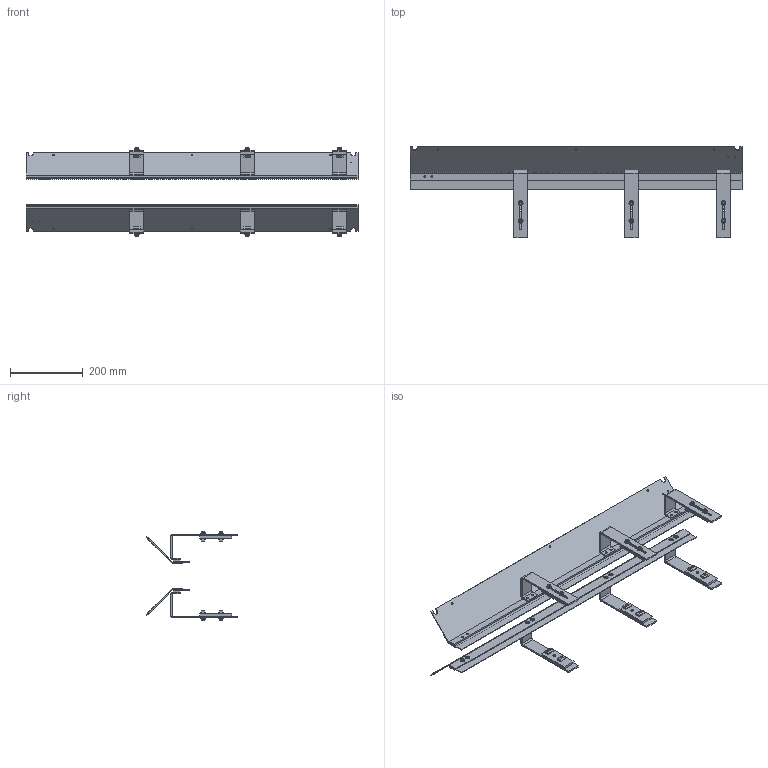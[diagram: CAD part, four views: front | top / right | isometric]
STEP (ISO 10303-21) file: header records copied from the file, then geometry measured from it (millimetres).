
FILE_DESCRIPTION((''),'2;1');
FILE_NAME('301293_ASM_ASM','2023-03-03T',('jenni.wallner'),(''),'PRO/ENGINEER BY PARAMETRIC TECHNOLOGY CORPORATION, 2012420','PRO/ENGINEER BY PARAMETRIC TECHNOLOGY CORPORATION, 2012420','');
FILE_SCHEMA(('CONFIG_CONTROL_DESIGN'));
Length unit declared in the file: inch
Products named in the file (12): 301279; 301274; 920684M; 639971M; 930512M; 301295_ASM_ASM; 300860M; 300745; 300696M; 930508M; ASM0001_ASM; 301293_ASM_ASM
Assembly tree (25 placements, depth 4):
  301293_ASM_ASM
    ASM0001_ASM
      301295_ASM_ASM  x6
        301279
        301274
        920684M
        639971M
        930512M
      300860M  x2
      300745  x2
      300696M  x2
      930508M  x4
Bounding box: 914.4 x 251.81 x 242.99 mm (x, y, z)
Volume: 1334789.5 mm3; surface area: 961723 mm2
Topology: 58 solids, 96 shells, 1330 faces, 3328 edges, 2172 vertices
Faces by surface type: plane 618, cylinder 544, cone 168
Entity records: 7763 total; most frequent: DIRECTION 1430, CARTESIAN_POINT 1344, ORIENTED_EDGE 1144, EDGE_CURVE 588, AXIS2_PLACEMENT_3D 550, VERTEX_POINT 386, VECTOR 330, LINE 330
